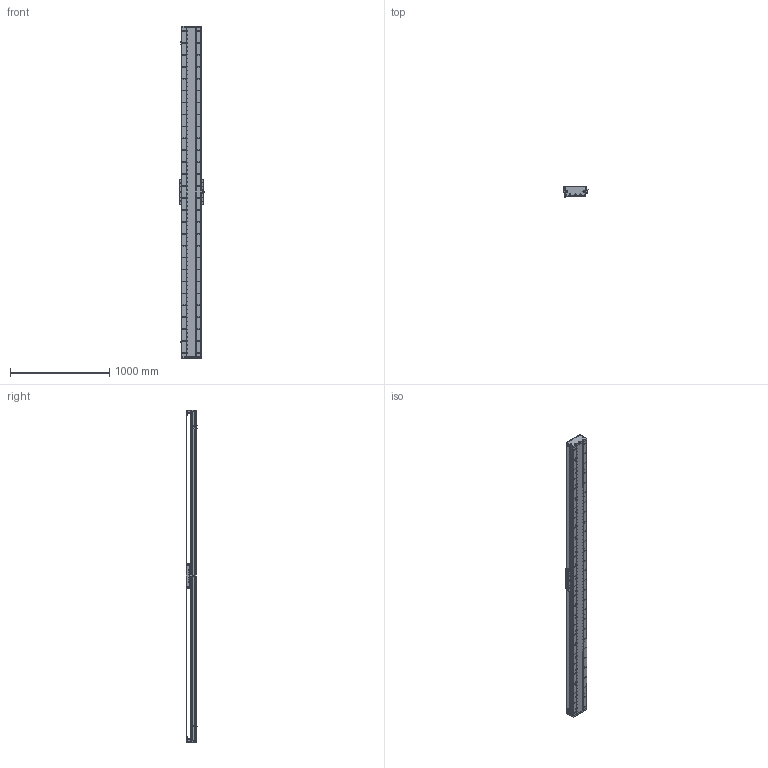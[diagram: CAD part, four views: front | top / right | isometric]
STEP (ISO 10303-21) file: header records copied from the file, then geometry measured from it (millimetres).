
FILE_DESCRIPTION (( 'STEP AP203' ), '1' );
FILE_NAME ('DA-C195-C3-T3000-C010-0.2 眻盄萇儂.STEP', '2025-08-15T01:28:39', ( '' ), ( '' ), 'SwSTEP 2.0', 'SolidWorks 2019', '' );
FILE_SCHEMA (( 'CONFIG_CONTROL_DESIGN' ));
Length unit declared in the file: millimetre
Products named in the file (15): MS200 棠掑喜S315-T240; PM-T45ㄗ侂狟ㄘ; DA165-GYP-00 光电感应片(默认); DA195詩湍嶺輸; DA-C195-C3-T3000-C010-0.2 眻盄萇儂; DA195詩湍郪璃; 葩璃 DA95-GT-T-00; IU-CU195-L-00 菁釱(L3300); DA-C195-GD-DB-H-00 傷啣; CU195-C3賑輸-俋楷; LMT黍杅芛; DA195詩湍菜輸; DA195詩湍裔啣; IU-CU195-L 菁釱絳寢; DA95-HXJ-00 遣喳砎蝶
Assembly tree (29 placements, depth 3):
  DA-C195-C3-T3000-C010-0.2 眻盄萇儂
    DA195詩湍郪璃
      DA195詩湍菜輸  x2
      DA195詩湍裔啣
      DA195詩湍嶺輸  x2
      DA95-HXJ-00 遣喳砎蝶  x8
      DA-C195-GD-DB-H-00 傷啣  x2
    IU-CU195-L 菁釱絳寢
      IU-CU195-L-00 菁釱(L3300)
      葩璃 DA95-GT-T-00  x4
    LMT黍杅芛
    MS200 棠掑喜S315-T240
    PM-T45ㄗ侂狟ㄘ  x3
    DA165-GYP-00 光电感应片(默认)
    CU195-C3賑輸-俋楷
Bounding box: 248 x 115.45 x 3340 mm (x, y, z)
Volume: 19050914.6 mm3; surface area: 5648741.9 mm2
Topology: 86 solids, 118 shells, 4636 faces, 13359 edges, 8465 vertices
Faces by surface type: cylinder 2658, plane 1376, cone 514, torus 52, sphere 36
Entity records: 155305 total; most frequent: CARTESIAN_POINT 44052, ORIENTED_EDGE 23634, DIRECTION 22166, EDGE_CURVE 11817, AXIS2_PLACEMENT_3D 8341, VERTEX_POINT 7667, LINE 5484, VECTOR 5484
